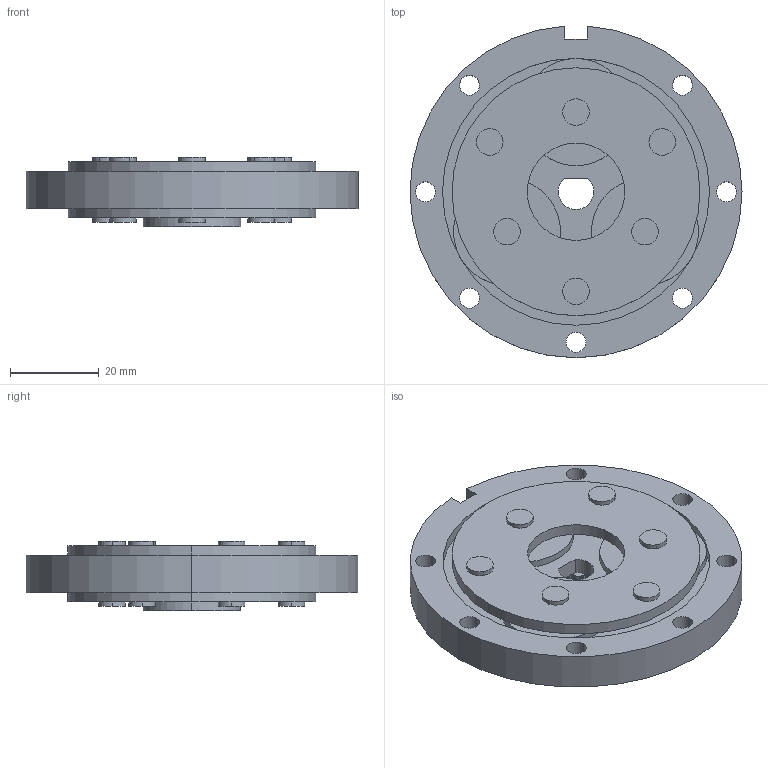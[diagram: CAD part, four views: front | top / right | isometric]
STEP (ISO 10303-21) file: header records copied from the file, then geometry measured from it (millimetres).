
FILE_DESCRIPTION (( 'STEP AP203' ), '1' );
FILE_NAME ('LGU75-5MAD.step', '2021-07-23T02:28:35', ( '' ), ( '' ), 'SwSTEP 2.0', 'SolidWorks 2021', '' );
FILE_SCHEMA (( 'CONFIG_CONTROL_DESIGN' ));
Length unit declared in the file: millimetre
Products named in the file (1): LGU75-5MAD
Bounding box: 75 x 74.92 x 15.7 mm (x, y, z)
Volume: 38880.4 mm3; surface area: 23314.9 mm2
Topology: 1 solids, 1 shells, 267 faces, 720 edges, 480 vertices
Faces by surface type: cylinder 236, plane 31
Entity records: 8799 total; most frequent: DIRECTION 1728, CARTESIAN_POINT 1468, ORIENTED_EDGE 1440, AXIS2_PLACEMENT_3D 740, EDGE_CURVE 720, VERTEX_POINT 480, CIRCLE 472, EDGE_LOOP 320
